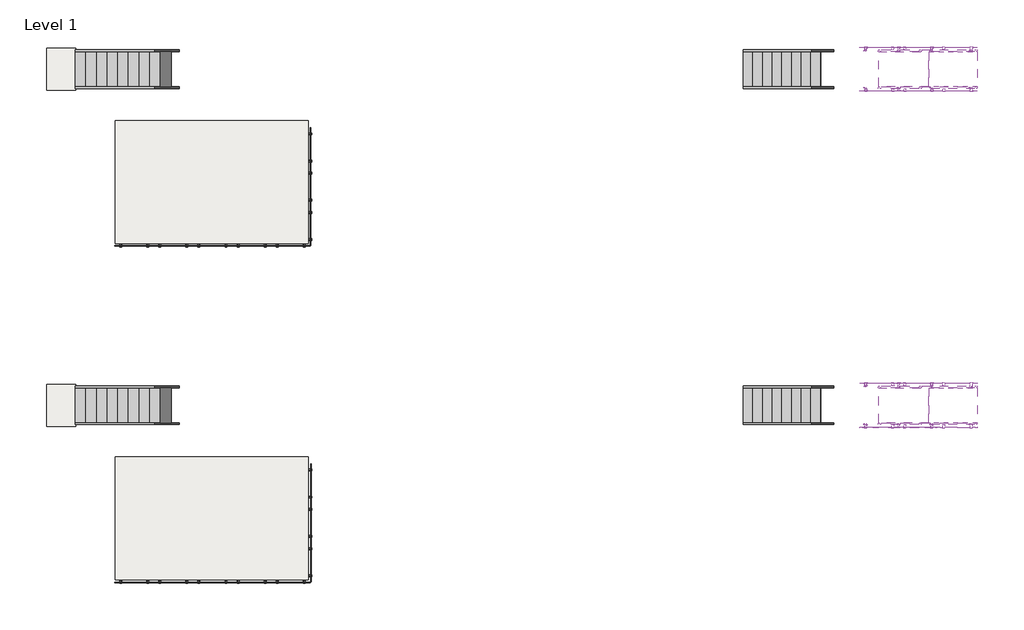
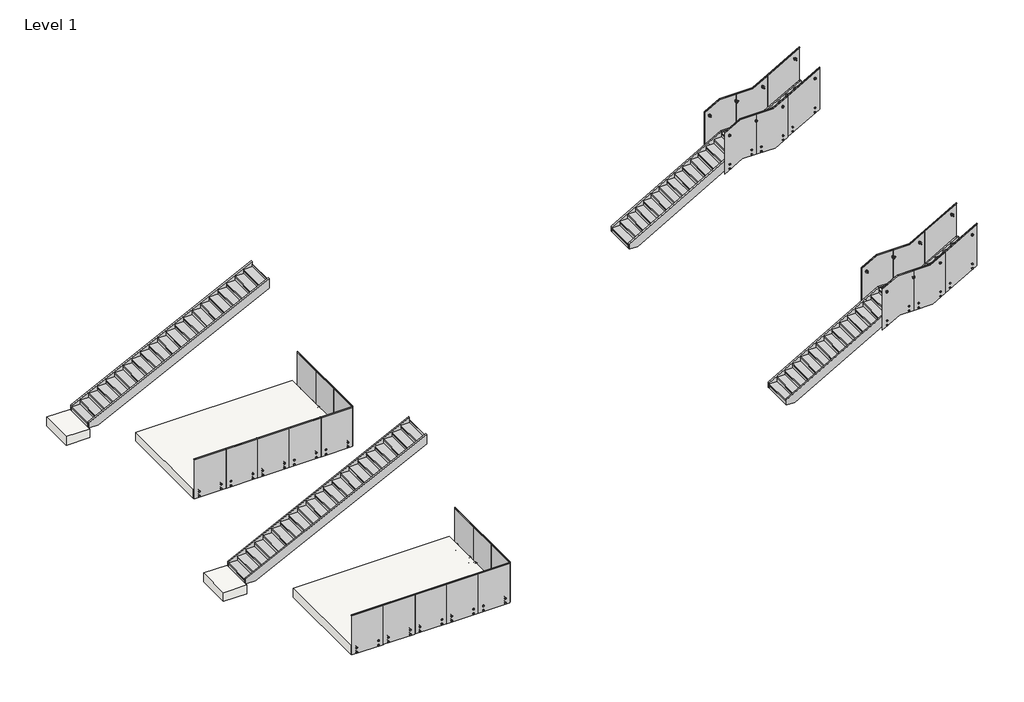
# One storey, incomplete: 20 railings, 16 members, 6 slabs, 6 stair flights.
"""IFC4 building model written with IfcOpenShell, lengths in millimetres."""

from ifc_helpers import new_model, si_unit, frame, origin, place, context, project, spatial, polyline, outline, extrude, transform, mapped, element, save
from components import baluster_landing_panel_viva_view_lower_standard_glass_baf17fb6, baluster_landing_panel_viva_view_lower_standard_glass_8c197ffc, baluster_landing_panel_viva_view_lower_standard_glass_plate_48608524, baluster_landing_panel_viva_view_lower_standard_glass_plate_9cf8be22, baluster_landing_panel_viva_view_upper_standard_glass_68725872, baluster_landing_panel_viva_view_upper_standard_glass_61d0895f, baluster_landing_panel_viva_view_upper_standard_glass_plate_0fa8d9fb, baluster_landing_panel_viva_view_upper_standard_glass_plate_b6f3f88f, glass_panels_viva_view_fascia_plate_stair_landing_6f1cc94a, glass_panels_viva_view_fascia_plate_stair_landing_6631e8c1, glass_panels_viva_view_fascia_plate_stair_upper_4dbd70eb, glass_panels_viva_view_fascia_plate_stair_upper_780a1570, glass_panels_viva_view_fascia_plate_straight_694c5218, glass_panels_viva_view_fascia_plate_straight_955ab671, glass_panels_viva_view_fascia_plate_straight_d094a03c, glass_panels_viva_view_fascia_stair_landing_6cf817cf, glass_panels_viva_view_fascia_stair_landing_1252441f, glass_panels_viva_view_fascia_stair_upper_067d8b25, glass_panels_viva_view_fascia_stair_upper_51e52ba1, glass_panels_viva_view_fascia_straight_8b977676, glass_panels_viva_view_fascia_straight_a0ca7b8d, glass_panels_viva_view_fascia_straight_b781b54e, non_monolithic_landing_45a33621, non_monolithic_landing_c8949c82, stair_flight_a2238ce2, stair_flight_372f6492, stair_flight_10cebc0c, stair_flight_68163fd1, stair_flight_7e468073, stair_flight_ec4a769a

model = new_model("IFC4")

# Units and contexts
model_context = context("Model", 3, world=origin())
ifc_project = project(units=[si_unit("LENGTHUNIT", "METRE", prefix="MILLI")], contexts=[model_context])

# Site, building, storey
site = spatial("IfcSite", under=ifc_project)
building = spatial("IfcBuilding", under=site)
storey = spatial("IfcBuildingStorey", under=building, Name="Level 1", Elevation=0.0)

# Members
placement = place(None, origin())
element("IfcMember", 1, at=placement, inside=storey, context=model_context, shape_type="SweptSolid", body=[
    extrude(outline(polyline([(179.6072535, 31609.5266433), (0.0, 31609.5266433), (0.0, 31883.9603217), (1916.7928571, 35238.3478217), (2208.8928571, 35160.7764497), (179.6072535, 31609.5266433)])), frame((0.0, -1567.8469585, 0.0), z_axis=(0.0, 1.0, 0.0), x_axis=(0.0, 0.0, 1.0)), (0.0, 0.0, 1.0), 50.8),
])
element("IfcMember", 2, at=placement, inside=storey, context=model_context, shape_type="SweptSolid", body=[
    extrude(outline(polyline([(179.6072535, 31609.5266433), (0.0, 31609.5266433), (0.0, 31883.9603217), (1916.7928571, 35238.3478217), (2208.8928571, 35160.7764497), (179.6072535, 31609.5266433)])), frame((0.0, -2533.0469585, 0.0), z_axis=(0.0, 1.0, 0.0), x_axis=(0.0, 0.0, 1.0)), (0.0, 0.0, 1.0), 50.8),
])
element("IfcMember", 3, at=placement, inside=storey, context=model_context, shape_type="SweptSolid", body=[
    extrude(outline(polyline([(2208.8928571, 36227.5764497), (1916.7928571, 36305.1478217), (2746.037898, 37756.3266433), (3048.0, 37756.3266433), (3048.0, 37696.0139497), (2208.8928571, 36227.5764497)])), frame((0.0, -1567.8469585, 0.0), z_axis=(0.0, 1.0, 0.0), x_axis=(0.0, 0.0, 1.0)), (0.0, 0.0, 1.0), 50.8),
])
element("IfcMember", 4, at=placement, inside=storey, context=model_context, shape_type="SweptSolid", body=[
    extrude(outline(polyline([(2208.8928571, 36227.5764497), (1916.7928571, 36305.1478217), (2746.037898, 37756.3266433), (3048.0, 37756.3266433), (3048.0, 37696.0139497), (2208.8928571, 36227.5764497)])), frame((0.0, -2533.0469585, 0.0), z_axis=(0.0, 1.0, 0.0), x_axis=(0.0, 0.0, 1.0)), (0.0, 0.0, 1.0), 50.8),
])
element("IfcMember", 5, at=placement, inside=storey, context=model_context, shape_type="SweptSolid", body=[
    extrude(outline(polyline([(1916.7928571, 36305.1478217), (2208.8928571, 36227.5764497), (2208.8928571, 35160.7764497), (1916.7928571, 35238.3478217), (1916.7928571, 36305.1478217)])), frame((0.0, -1567.8469585, 0.0), z_axis=(0.0, 1.0, 0.0), x_axis=(0.0, 0.0, 1.0)), (0.0, 0.0, 1.0), 50.8),
])
element("IfcMember", 6, at=placement, inside=storey, context=model_context, shape_type="SweptSolid", body=[
    extrude(outline(polyline([(2208.8928571, 35160.7764497), (1916.7928571, 35238.3478217), (1916.7928571, 36305.1478217), (2208.8928571, 36227.5764497), (2208.8928571, 35160.7764497)])), frame((0.0, -2533.0469585, 0.0), z_axis=(0.0, 1.0, 0.0), x_axis=(0.0, 0.0, 1.0)), (0.0, 0.0, 1.0), 50.8),
])
element("IfcMember", 7, at=placement, inside=storey, context=model_context, shape_type="SweptSolid", body=[
    extrude(outline(polyline([(179.6072535, 31609.5266433), (0.0, 31609.5266433), (0.0, 31883.9603217), (1916.7928571, 35238.3478217), (2208.8928571, 35160.7764497), (179.6072535, 31609.5266433)])), frame((0.0, -10407.0469585, 0.0), z_axis=(0.0, 1.0, 0.0), x_axis=(0.0, 0.0, 1.0)), (0.0, 0.0, 1.0), 50.8),
])
element("IfcMember", 8, at=placement, inside=storey, context=model_context, shape_type="SweptSolid", body=[
    extrude(outline(polyline([(179.6072535, 31609.5266433), (0.0, 31609.5266433), (0.0, 31883.9603217), (1916.7928571, 35238.3478217), (2208.8928571, 35160.7764497), (179.6072535, 31609.5266433)])), frame((0.0, -11372.2469585, 0.0), z_axis=(0.0, 1.0, 0.0), x_axis=(0.0, 0.0, 1.0)), (0.0, 0.0, 1.0), 50.8),
])
element("IfcMember", 9, at=placement, inside=storey, context=model_context, shape_type="SweptSolid", body=[
    extrude(outline(polyline([(2208.8928571, 36227.5764497), (1916.7928571, 36305.1478217), (2746.037898, 37756.3266433), (3048.0, 37756.3266433), (3048.0, 37696.0139497), (2208.8928571, 36227.5764497)])), frame((0.0, -10407.0469585, 0.0), z_axis=(0.0, 1.0, 0.0), x_axis=(0.0, 0.0, 1.0)), (0.0, 0.0, 1.0), 50.8),
])
element("IfcMember", 10, at=placement, inside=storey, context=model_context, shape_type="SweptSolid", body=[
    extrude(outline(polyline([(2208.8928571, 36227.5764497), (1916.7928571, 36305.1478217), (2746.037898, 37756.3266433), (3048.0, 37756.3266433), (3048.0, 37696.0139497), (2208.8928571, 36227.5764497)])), frame((0.0, -11372.2469585, 0.0), z_axis=(0.0, 1.0, 0.0), x_axis=(0.0, 0.0, 1.0)), (0.0, 0.0, 1.0), 50.8),
])
element("IfcMember", 11, at=placement, inside=storey, context=model_context, shape_type="SweptSolid", body=[
    extrude(outline(polyline([(1916.7928571, 36305.1478217), (2208.8928571, 36227.5764497), (2208.8928571, 35160.7764497), (1916.7928571, 35238.3478217), (1916.7928571, 36305.1478217)])), frame((0.0, -10407.0469585, 0.0), z_axis=(0.0, 1.0, 0.0), x_axis=(0.0, 0.0, 1.0)), (0.0, 0.0, 1.0), 50.8),
])
element("IfcMember", 12, at=placement, inside=storey, context=model_context, shape_type="SweptSolid", body=[
    extrude(outline(polyline([(2208.8928571, 35160.7764497), (1916.7928571, 35238.3478217), (1916.7928571, 36305.1478217), (2208.8928571, 36227.5764497), (2208.8928571, 35160.7764497)])), frame((0.0, -11372.2469585, 0.0), z_axis=(0.0, 1.0, 0.0), x_axis=(0.0, 0.0, 1.0)), (0.0, 0.0, 1.0), 50.8),
])
element("IfcMember", 13, ObjectType="Stringer - 2\" Width", at=placement, inside=storey, context=model_context, shape_type="SweptSolid", body=[
    extrude(outline(polyline([(172.861478, 14058.1266433), (0.0, 14058.1266433), (0.0, 14367.0360931), (2756.2763058, 19925.5266433), (3082.3160235, 19925.5266433), (172.861478, 14058.1266433)])), frame((0.0, -10407.0469585, 0.0), z_axis=(0.0, 1.0, 0.0), x_axis=(0.0, 0.0, 1.0)), (0.0, 0.0, 1.0), 50.8),
])
element("IfcMember", 14, ObjectType="Stringer - 2\" Width", at=placement, inside=storey, context=model_context, shape_type="SweptSolid", body=[
    extrude(outline(polyline([(172.861478, 14058.1266433), (0.0, 14058.1266433), (0.0, 14367.0360931), (2756.2763058, 19925.5266433), (3082.3160235, 19925.5266433), (172.861478, 14058.1266433)])), frame((0.0, -11372.2469585, 0.0), z_axis=(0.0, 1.0, 0.0), x_axis=(0.0, 0.0, 1.0)), (0.0, 0.0, 1.0), 50.8),
])
element("IfcMember", 15, ObjectType="Stringer - 2\" Width", at=placement, inside=storey, context=model_context, shape_type="SweptSolid", body=[
    extrude(outline(polyline([(172.861478, 14058.1266433), (0.0, 14058.1266433), (0.0, 14367.0360931), (2756.2763058, 19925.5266433), (3082.3160235, 19925.5266433), (172.861478, 14058.1266433)])), frame((0.0, -1567.8469585, 0.0), z_axis=(0.0, 1.0, 0.0), x_axis=(0.0, 0.0, 1.0)), (0.0, 0.0, 1.0), 50.8),
])
element("IfcMember", 16, ObjectType="Stringer - 2\" Width", at=placement, inside=storey, context=model_context, shape_type="SweptSolid", body=[
    extrude(outline(polyline([(172.861478, 14058.1266433), (0.0, 14058.1266433), (0.0, 14367.0360931), (2756.2763058, 19925.5266433), (3082.3160235, 19925.5266433), (172.861478, 14058.1266433)])), frame((0.0, -2533.0469585, 0.0), z_axis=(0.0, 1.0, 0.0), x_axis=(0.0, 0.0, 1.0)), (0.0, 0.0, 1.0), 50.8),
])

# Railings
baluster_landing_panel_viva_view_lower_standard_glass_shape = baluster_landing_panel_viva_view_lower_standard_glass_baf17fb6(model_context)
element("IfcRailing", 17, ObjectType="Baluster-Landing-Panel-VIVA-VIEW-Lower : Standard_Glass", at=placement, inside=storey, context=model_context, shape_type="MappedRepresentation", body=[
    mapped(baluster_landing_panel_viva_view_lower_standard_glass_shape, transform((34681.8574181, -2636.2489839, 2200.9096038), x_axis=(0.0, 1.0, 0.0), y_axis=(-1.0, 0.0, 0.0), z_axis=(0.0, 0.0, 1.0))),
])
baluster_landing_panel_viva_view_lower_standard_glass_2_shape = baluster_landing_panel_viva_view_lower_standard_glass_8c197ffc(model_context)
element("IfcRailing", 18, ObjectType="Baluster-Landing-Panel-VIVA-VIEW-Lower : Standard_Glass", at=placement, inside=storey, context=model_context, shape_type="MappedRepresentation", body=[
    mapped(baluster_landing_panel_viva_view_lower_standard_glass_2_shape, transform((34681.8574181, -1413.8449331, 2200.9096038), x_axis=(0.0, -1.0, 0.0), y_axis=(1.0, 0.0, 0.0), z_axis=(0.0, 0.0, 1.0))),
])
baluster_landing_panel_viva_view_lower_standard_glass_plate_shape = baluster_landing_panel_viva_view_lower_standard_glass_plate_48608524(model_context)
element("IfcRailing", 19, ObjectType="Baluster-Landing-Panel-VIVA-VIEW-Lower : Standard_Glass Plate", at=placement, inside=storey, context=model_context, shape_type="MappedRepresentation", body=[
    mapped(baluster_landing_panel_viva_view_lower_standard_glass_plate_shape, transform((34681.8574181, -11484.9594585, 2200.9096038), x_axis=(0.0, 1.0, 0.0), y_axis=(-1.0, 0.0, 0.0), z_axis=(0.0, 0.0, 1.0))),
])
baluster_landing_panel_viva_view_lower_standard_glass_plate_2_shape = baluster_landing_panel_viva_view_lower_standard_glass_plate_9cf8be22(model_context)
element("IfcRailing", 20, ObjectType="Baluster-Landing-Panel-VIVA-VIEW-Lower : Standard_Glass Plate", at=placement, inside=storey, context=model_context, shape_type="MappedRepresentation", body=[
    mapped(baluster_landing_panel_viva_view_lower_standard_glass_plate_2_shape, transform((34681.8574181, -10243.5344585, 2200.9096038), x_axis=(0.0, -1.0, 0.0), y_axis=(1.0, 0.0, 0.0), z_axis=(0.0, 0.0, 1.0))),
])
baluster_landing_panel_viva_view_upper_standard_glass_shape = baluster_landing_panel_viva_view_upper_standard_glass_68725872(model_context)
element("IfcRailing", 21, ObjectType="Baluster-Landing-Panel-VIVA-VIEW-Upper : Standard_Glass", at=placement, inside=storey, context=model_context, shape_type="MappedRepresentation", body=[
    mapped(baluster_landing_panel_viva_view_upper_standard_glass_shape, transform((36713.8544815, -2634.5046877, 2200.0803626), x_axis=(0.0, 1.0, 0.0), y_axis=(-1.0, 0.0, 0.0), z_axis=(0.0, 0.0, 1.0))),
])
baluster_landing_panel_viva_view_upper_standard_glass_2_shape = baluster_landing_panel_viva_view_upper_standard_glass_61d0895f(model_context)
element("IfcRailing", 22, ObjectType="Baluster-Landing-Panel-VIVA-VIEW-Upper : Standard_Glass", at=placement, inside=storey, context=model_context, shape_type="MappedRepresentation", body=[
    mapped(baluster_landing_panel_viva_view_upper_standard_glass_2_shape, transform((36713.8544815, -1415.5892293, 2200.0803626), x_axis=(0.0, -1.0, 0.0), y_axis=(1.0, 0.0, 0.0), z_axis=(0.0, 0.0, 1.0))),
])
baluster_landing_panel_viva_view_upper_standard_glass_plate_shape = baluster_landing_panel_viva_view_upper_standard_glass_plate_0fa8d9fb(model_context)
element("IfcRailing", 23, ObjectType="Baluster-Landing-Panel-VIVA-VIEW-Upper : Standard_Glass Plate", at=placement, inside=storey, context=model_context, shape_type="MappedRepresentation", body=[
    mapped(baluster_landing_panel_viva_view_upper_standard_glass_plate_shape, transform((36713.8544815, -11483.2151623, 2200.0803626), x_axis=(0.0, 1.0, 0.0), y_axis=(-1.0, 0.0, 0.0), z_axis=(0.0, 0.0, 1.0))),
])
baluster_landing_panel_viva_view_upper_standard_glass_plate_2_shape = baluster_landing_panel_viva_view_upper_standard_glass_plate_b6f3f88f(model_context)
element("IfcRailing", 24, ObjectType="Baluster-Landing-Panel-VIVA-VIEW-Upper : Standard_Glass Plate", at=placement, inside=storey, context=model_context, shape_type="MappedRepresentation", body=[
    mapped(baluster_landing_panel_viva_view_upper_standard_glass_plate_2_shape, transform((36713.8544815, -10245.2787547, 2200.0803626), x_axis=(0.0, -1.0, 0.0), y_axis=(1.0, 0.0, 0.0), z_axis=(0.0, 0.0, 1.0))),
])
glass_panels_viva_view_fascia_plate_stair_landing_shape = glass_panels_viva_view_fascia_plate_stair_landing_6f1cc94a(model_context)
element("IfcRailing", 25, ObjectType="Glass Panels-VIVA-VIEW-Fascia-Plate-Stair-Landing", at=placement, inside=storey, context=model_context, shape_type="MappedRepresentation", body=[
    mapped(glass_panels_viva_view_fascia_plate_stair_landing_shape, transform((0.0, 0.0, 0.0), x_axis=(1.0, 0.0, 0.0), y_axis=(0.0, 1.0, 0.0), z_axis=(0.0, 0.0, 1.0))),
])
glass_panels_viva_view_fascia_plate_stair_landing_2_shape = glass_panels_viva_view_fascia_plate_stair_landing_6631e8c1(model_context)
element("IfcRailing", 26, ObjectType="Glass Panels-VIVA-VIEW-Fascia-Plate-Stair-Landing", at=placement, inside=storey, context=model_context, shape_type="MappedRepresentation", body=[
    mapped(glass_panels_viva_view_fascia_plate_stair_landing_2_shape, transform((0.0, 0.0, 0.0), x_axis=(1.0, 0.0, 0.0), y_axis=(0.0, 1.0, 0.0), z_axis=(0.0, 0.0, 1.0))),
])
glass_panels_viva_view_fascia_plate_stair_upper_shape = glass_panels_viva_view_fascia_plate_stair_upper_4dbd70eb(model_context)
element("IfcRailing", 27, ObjectType="Glass Panels-VIVA-VIEW-Fascia-Plate-Stair-Upper", at=placement, inside=storey, context=model_context, shape_type="MappedRepresentation", body=[
    mapped(glass_panels_viva_view_fascia_plate_stair_upper_shape, transform((0.0, 0.0, 0.0), x_axis=(1.0, 0.0, 0.0), y_axis=(0.0, 1.0, 0.0), z_axis=(0.0, 0.0, 1.0))),
])
glass_panels_viva_view_fascia_plate_stair_upper_2_shape = glass_panels_viva_view_fascia_plate_stair_upper_780a1570(model_context)
element("IfcRailing", 28, ObjectType="Glass Panels-VIVA-VIEW-Fascia-Plate-Stair-Upper", at=placement, inside=storey, context=model_context, shape_type="MappedRepresentation", body=[
    mapped(glass_panels_viva_view_fascia_plate_stair_upper_2_shape, transform((0.0, 0.0, 0.0), x_axis=(1.0, 0.0, 0.0), y_axis=(0.0, 1.0, 0.0), z_axis=(0.0, 0.0, 1.0))),
])
glass_panels_viva_view_fascia_plate_straight_shape = glass_panels_viva_view_fascia_plate_straight_694c5218(model_context)
glass_panels_viva_view_fascia_plate_straight_2_shape = glass_panels_viva_view_fascia_plate_straight_955ab671(model_context)
element("IfcRailing", 29, ObjectType="Glass Panels-VIVA-VIEW-Fascia-Plate-Straight", at=placement, inside=storey, context=model_context, shape_type="MappedRepresentation", body=[
    mapped(glass_panels_viva_view_fascia_plate_straight_shape, transform((0.0, 0.0, 0.0), x_axis=(1.0, 0.0, 0.0), y_axis=(0.0, 1.0, 0.0), z_axis=(0.0, 0.0, 1.0))),
    mapped(glass_panels_viva_view_fascia_plate_straight_2_shape, transform((0.0, 0.0, 0.0), x_axis=(1.0, 0.0, 0.0), y_axis=(0.0, 1.0, 0.0), z_axis=(0.0, 0.0, 1.0))),
])
glass_panels_viva_view_fascia_plate_straight_3_shape = glass_panels_viva_view_fascia_plate_straight_d094a03c(model_context)
element("IfcRailing", 30, ObjectType="Glass Panels-VIVA-VIEW-Fascia-Plate-Straight", at=placement, inside=storey, context=model_context, shape_type="MappedRepresentation", body=[
    mapped(glass_panels_viva_view_fascia_plate_straight_3_shape, transform((0.0, 0.0, 0.0), x_axis=(1.0, 0.0, 0.0), y_axis=(0.0, 1.0, 0.0), z_axis=(0.0, 0.0, 1.0))),
])
glass_panels_viva_view_fascia_stair_landing_shape = glass_panels_viva_view_fascia_stair_landing_6cf817cf(model_context)
element("IfcRailing", 31, ObjectType="Glass Panels-VIVA-VIEW-Fascia-Stair-Landing", at=placement, inside=storey, context=model_context, shape_type="MappedRepresentation", body=[
    mapped(glass_panels_viva_view_fascia_stair_landing_shape, transform((0.0, 0.0, 0.0), x_axis=(1.0, 0.0, 0.0), y_axis=(0.0, 1.0, 0.0), z_axis=(0.0, 0.0, 1.0))),
])
glass_panels_viva_view_fascia_stair_landing_2_shape = glass_panels_viva_view_fascia_stair_landing_1252441f(model_context)
element("IfcRailing", 32, ObjectType="Glass Panels-VIVA-VIEW-Fascia-Stair-Landing", at=placement, inside=storey, context=model_context, shape_type="MappedRepresentation", body=[
    mapped(glass_panels_viva_view_fascia_stair_landing_2_shape, transform((0.0, 0.0, 0.0), x_axis=(1.0, 0.0, 0.0), y_axis=(0.0, 1.0, 0.0), z_axis=(0.0, 0.0, 1.0))),
])
glass_panels_viva_view_fascia_stair_upper_shape = glass_panels_viva_view_fascia_stair_upper_067d8b25(model_context)
element("IfcRailing", 33, ObjectType="Glass Panels-VIVA-VIEW-Fascia-Stair-Upper", at=placement, inside=storey, context=model_context, shape_type="MappedRepresentation", body=[
    mapped(glass_panels_viva_view_fascia_stair_upper_shape, transform((0.0, 0.0, 0.0), x_axis=(1.0, 0.0, 0.0), y_axis=(0.0, 1.0, 0.0), z_axis=(0.0, 0.0, 1.0))),
])
glass_panels_viva_view_fascia_stair_upper_2_shape = glass_panels_viva_view_fascia_stair_upper_51e52ba1(model_context)
element("IfcRailing", 34, ObjectType="Glass Panels-VIVA-VIEW-Fascia-Stair-Upper", at=placement, inside=storey, context=model_context, shape_type="MappedRepresentation", body=[
    mapped(glass_panels_viva_view_fascia_stair_upper_2_shape, transform((0.0, 0.0, 0.0), x_axis=(1.0, 0.0, 0.0), y_axis=(0.0, 1.0, 0.0), z_axis=(0.0, 0.0, 1.0))),
])
glass_panels_viva_view_fascia_straight_shape = glass_panels_viva_view_fascia_straight_8b977676(model_context)
glass_panels_viva_view_fascia_straight_2_shape = glass_panels_viva_view_fascia_straight_a0ca7b8d(model_context)
element("IfcRailing", 35, ObjectType="Glass Panels-VIVA-VIEW-Fascia-Straight", at=placement, inside=storey, context=model_context, shape_type="MappedRepresentation", body=[
    mapped(glass_panels_viva_view_fascia_straight_shape, transform((0.0, 0.0, 0.0), x_axis=(1.0, 0.0, 0.0), y_axis=(0.0, 1.0, 0.0), z_axis=(0.0, 0.0, 1.0))),
    mapped(glass_panels_viva_view_fascia_straight_2_shape, transform((0.0, 0.0, 0.0), x_axis=(1.0, 0.0, 0.0), y_axis=(0.0, 1.0, 0.0), z_axis=(0.0, 0.0, 1.0))),
])
glass_panels_viva_view_fascia_straight_3_shape = glass_panels_viva_view_fascia_straight_b781b54e(model_context)
element("IfcRailing", 36, ObjectType="Glass Panels-VIVA-VIEW-Fascia-Straight", at=placement, inside=storey, context=model_context, shape_type="MappedRepresentation", body=[
    mapped(glass_panels_viva_view_fascia_straight_3_shape, transform((0.0, 0.0, 0.0), x_axis=(1.0, 0.0, 0.0), y_axis=(0.0, 1.0, 0.0), z_axis=(0.0, 0.0, 1.0))),
])

# Slabs
element("IfcSlab", 37, ObjectType="Generic - 12\"", at=placement, inside=storey, context=model_context, shape_type="SweptSolid", body=[
    extrude(outline(polyline([(13302.4766433, -1471.3269585), (14064.4766433, -1471.3269585), (14064.4766433, -2578.7669585), (13302.4766433, -2578.7669585), (13302.4766433, -1471.3269585)])), frame((0.0, 0.0, -304.8), z_axis=(0.0, 0.0, 1.0), x_axis=(1.0, 0.0, 0.0)), (0.0, 0.0, 1.0), 304.8),
])
element("IfcSlab", 38, ObjectType="Generic - 12\"", at=placement, inside=storey, context=model_context, shape_type="SweptSolid", body=[
    extrude(outline(polyline([(20178.5721444, -6611.0097999), (15102.1712478, -6611.0097999), (15102.1712478, -3375.6849469), (20178.5721444, -3375.6849469), (20178.5721444, -6611.0097999)])), frame((0.0, 0.0, -304.8), z_axis=(0.0, 0.0, 1.0), x_axis=(1.0, 0.0, 0.0)), (0.0, 0.0, 1.0), 304.8),
])
element("IfcSlab", 39, ObjectType="Generic - 12\"", at=placement, inside=storey, context=model_context, shape_type="SweptSolid", body=[
    extrude(outline(polyline([(13302.4766433, -10310.5269585), (14064.4766433, -10310.5269585), (14064.4766433, -11417.9669585), (13302.4766433, -11417.9669585), (13302.4766433, -10310.5269585)])), frame((0.0, 0.0, -304.8), z_axis=(0.0, 0.0, 1.0), x_axis=(1.0, 0.0, 0.0)), (0.0, 0.0, 1.0), 304.8),
])
element("IfcSlab", 40, ObjectType="Generic - 12\"", at=placement, inside=storey, context=model_context, shape_type="SweptSolid", body=[
    extrude(outline(polyline([(20178.5721444, -15450.2097999), (15102.1712478, -15450.2097999), (15102.1712478, -12214.8849469), (20178.5721444, -12214.8849469), (20178.5721444, -15450.2097999)])), frame((0.0, 0.0, -304.8), z_axis=(0.0, 0.0, 1.0), x_axis=(1.0, 0.0, 0.0)), (0.0, 0.0, 1.0), 304.8),
])
non_monolithic_landing_shape = non_monolithic_landing_45a33621(model_context)
element("IfcSlab", 41, ObjectType="Non-Monolithic Landing", at=placement, inside=storey, context=model_context, shape_type="MappedRepresentation", body=[
    mapped(non_monolithic_landing_shape, transform((0.0, 0.0, 0.0), x_axis=(1.0, 0.0, 0.0), y_axis=(0.0, 1.0, 0.0), z_axis=(0.0, 0.0, 1.0))),
])
non_monolithic_landing_2_shape = non_monolithic_landing_c8949c82(model_context)
element("IfcSlab", 42, ObjectType="Non-Monolithic Landing", at=placement, inside=storey, context=model_context, shape_type="MappedRepresentation", body=[
    mapped(non_monolithic_landing_2_shape, transform((0.0, 0.0, 0.0), x_axis=(1.0, 0.0, 0.0), y_axis=(0.0, 1.0, 0.0), z_axis=(0.0, 0.0, 1.0))),
])

# Stair flights
stair_flight_shape = stair_flight_a2238ce2(model_context)
element("IfcStairFlight", 43, ObjectType="2\" Tread 1/4\" Riser", at=placement, inside=storey, context=model_context, shape_type="MappedRepresentation", body=[
    mapped(stair_flight_shape, transform((0.0, 0.0, 0.0), x_axis=(1.0, 0.0, 0.0), y_axis=(0.0, 1.0, 0.0), z_axis=(0.0, 0.0, 1.0))),
])
stair_flight_2_shape = stair_flight_372f6492(model_context)
element("IfcStairFlight", 44, ObjectType="2\" Tread 1/4\" Riser", at=placement, inside=storey, context=model_context, shape_type="MappedRepresentation", body=[
    mapped(stair_flight_2_shape, transform((0.0, 0.0, 0.0), x_axis=(1.0, 0.0, 0.0), y_axis=(0.0, 1.0, 0.0), z_axis=(0.0, 0.0, 1.0))),
])
stair_flight_3_shape = stair_flight_10cebc0c(model_context)
element("IfcStairFlight", 45, ObjectType="2\" Tread 1/4\" Riser", at=placement, inside=storey, context=model_context, shape_type="MappedRepresentation", body=[
    mapped(stair_flight_3_shape, transform((0.0, 0.0, 0.0), x_axis=(1.0, 0.0, 0.0), y_axis=(0.0, 1.0, 0.0), z_axis=(0.0, 0.0, 1.0))),
])
stair_flight_4_shape = stair_flight_68163fd1(model_context)
element("IfcStairFlight", 46, ObjectType="2\" Tread 1/4\" Riser", at=placement, inside=storey, context=model_context, shape_type="MappedRepresentation", body=[
    mapped(stair_flight_4_shape, transform((0.0, 0.0, 0.0), x_axis=(1.0, 0.0, 0.0), y_axis=(0.0, 1.0, 0.0), z_axis=(0.0, 0.0, 1.0))),
])
stair_flight_5_shape = stair_flight_7e468073(model_context)
element("IfcStairFlight", 47, ObjectType="2\" Tread 1/4\" Riser", at=placement, inside=storey, context=model_context, shape_type="MappedRepresentation", body=[
    mapped(stair_flight_5_shape, transform((0.0, 0.0, 0.0), x_axis=(1.0, 0.0, 0.0), y_axis=(0.0, 1.0, 0.0), z_axis=(0.0, 0.0, 1.0))),
])
stair_flight_6_shape = stair_flight_ec4a769a(model_context)
element("IfcStairFlight", 48, ObjectType="2\" Tread 1/4\" Riser", at=placement, inside=storey, context=model_context, shape_type="MappedRepresentation", body=[
    mapped(stair_flight_6_shape, transform((0.0, 0.0, 0.0), x_axis=(1.0, 0.0, 0.0), y_axis=(0.0, 1.0, 0.0), z_axis=(0.0, 0.0, 1.0))),
])

save(model, "model.ifc")
